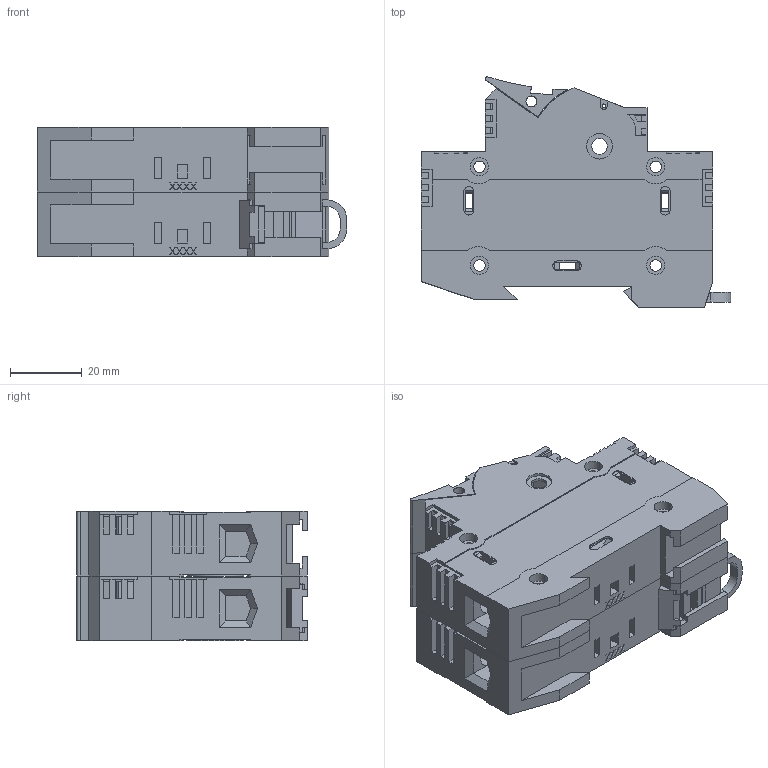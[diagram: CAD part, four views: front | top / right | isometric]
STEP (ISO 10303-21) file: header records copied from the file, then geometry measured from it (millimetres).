
FILE_DESCRIPTION((''),'2;1');
FILE_NAME('2_POLE_FUSE_HOLDER_MIDG','2007-01-22T',('abschult'),('Rockwell Automation'),'PRO/ENGINEER BY PARAMETRIC TECHNOLOGY CORPORATION, 2004320','PRO/ENGINEER BY PARAMETRIC TECHNOLOGY CORPORATION, 2004320','');
FILE_SCHEMA(('CONFIG_CONTROL_DESIGN'));
Length unit declared in the file: inch
Products named in the file (1): 2_POLE_FUSE_HOLDER_MIDG
Bounding box: 86 x 64.01 x 36 mm (x, y, z)
Surface area: 39967.3 mm2 (no closed solid volume)
Topology: 0 solids, 8 shells, 1006 faces, 3046 edges, 1970 vertices
Faces by surface type: plane 662, cylinder 214, bspline 102, torus 20, sphere 8
Entity records: 35805 total; most frequent: CARTESIAN_POINT 9302, ORIENTED_EDGE 5556, DIRECTION 5064, EDGE_CURVE 2968, VECTOR 2184, LINE 2184, VERTEX_POINT 2046, AXIS2_PLACEMENT_3D 1440
